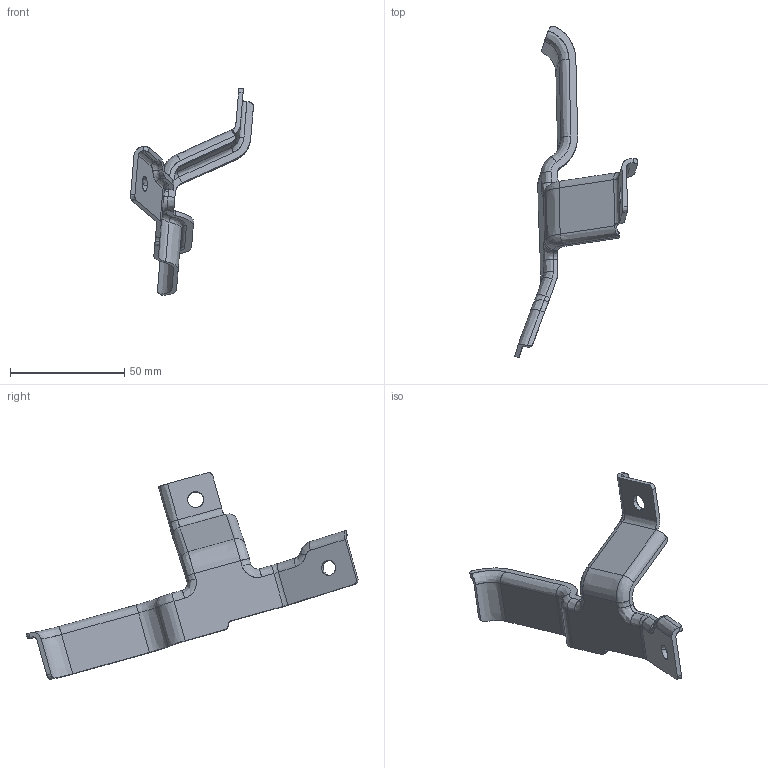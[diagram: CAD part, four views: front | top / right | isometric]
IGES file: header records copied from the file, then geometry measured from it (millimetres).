
Start section: START RECORD GO HERE.
Global section: file name: TEST_A.igs; native system: IBM CATIA IGES - CATIA Version 5 Release 16 ; preprocessor: CATIA Version 5 Release 16 ; author: catia1; organization: RACO.IT; date: 20090710.114754; units: millimetre
Bounding box: 53.78 x 145.41 x 90.58 mm (x, y, z)
Surface area: 12455.7 mm2 (no closed solid volume)
Topology: 0 solids, 0 shells, 123 faces, 638 edges, 638 vertices
Faces by surface type: bspline 123
